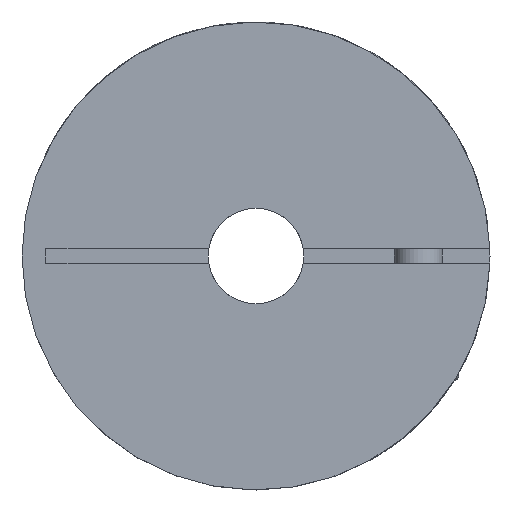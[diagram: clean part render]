
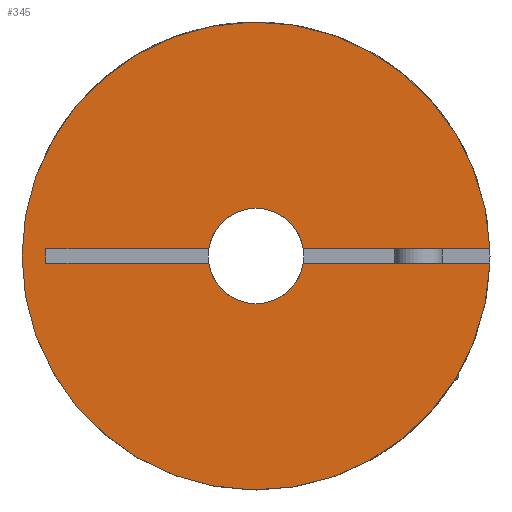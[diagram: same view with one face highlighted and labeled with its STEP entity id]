
A CAD part, left-side view. The second image highlights one B-rep face of the part: STEP entity #345.
In plain terms, the highlighted planar face has unit normal (-1, 0, 0).
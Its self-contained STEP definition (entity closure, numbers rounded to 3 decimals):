
#345=ADVANCED_FACE('',(#822),#823,.T.);
#822=FACE_OUTER_BOUND('',#1434,.T.);
#823=PLANE('',#1435);
#1434=EDGE_LOOP('',(#2345,#2346,#2347,#2348,#2349,#2350,#2351,#2352,#2353,#2354,#2355));
#1435=AXIS2_PLACEMENT_3D('',#2356,#2357,#2358);
#2345=ORIENTED_EDGE('',*,*,#3153,.T.);
#2346=ORIENTED_EDGE('',*,*,#3142,.T.);
#2347=ORIENTED_EDGE('',*,*,#3169,.F.);
#2348=ORIENTED_EDGE('',*,*,#3209,.F.);
#2349=ORIENTED_EDGE('',*,*,#3175,.T.);
#2350=ORIENTED_EDGE('',*,*,#3145,.T.);
#2351=ORIENTED_EDGE('',*,*,#3151,.T.);
#2352=ORIENTED_EDGE('',*,*,#3202,.T.);
#2353=ORIENTED_EDGE('',*,*,#3118,.F.);
#2354=ORIENTED_EDGE('',*,*,#3210,.F.);
#2355=ORIENTED_EDGE('',*,*,#3205,.T.);
#2356=CARTESIAN_POINT('',(0.,0.,24.5));
#2357=DIRECTION('',(-1.0,0.0,0.0));
#2358=DIRECTION('',(0.0,-1.0,0.0));
#3118=EDGE_CURVE('',#3670,#3672,#3673,.T.);
#3142=EDGE_CURVE('',#3707,#3715,#3717,.T.);
#3145=EDGE_CURVE('',#3722,#3719,#3723,.T.);
#3151=EDGE_CURVE('',#3719,#3730,#3732,.T.);
#3153=EDGE_CURVE('',#3734,#3707,#3735,.T.);
#3169=EDGE_CURVE('',#3756,#3715,#3758,.T.);
#3175=EDGE_CURVE('',#3765,#3722,#3766,.T.);
#3202=EDGE_CURVE('',#3730,#3672,#3800,.T.);
#3205=EDGE_CURVE('',#3803,#3734,#3804,.T.);
#3209=EDGE_CURVE('',#3765,#3756,#3808,.T.);
#3210=EDGE_CURVE('',#3803,#3670,#3809,.T.);
#3670=VERTEX_POINT('',#4542);
#3672=VERTEX_POINT('',#4545);
#3673=CIRCLE('',#4546,24.5);
#3707=VERTEX_POINT('',#4588);
#3715=VERTEX_POINT('',#4598);
#3717=CIRCLE('',#4601,5.0);
#3719=VERTEX_POINT('',#4603);
#3722=VERTEX_POINT('',#4607);
#3723=CIRCLE('',#4608,5.0);
#3730=VERTEX_POINT('',#4616);
#3732=CIRCLE('',#4619,5.0);
#3734=VERTEX_POINT('',#4621);
#3735=CIRCLE('',#4622,5.0);
#3756=VERTEX_POINT('',#4647);
#3758=LINE('',#4650,#4651);
#3765=VERTEX_POINT('',#4660);
#3766=LINE('',#4661,#4662);
#3800=LINE('',#4712,#4713);
#3803=VERTEX_POINT('',#4716);
#3804=LINE('',#4717,#4718);
#3808=LINE('',#4723,#4724);
#3809=CIRCLE('',#4725,24.5);
#4542=CARTESIAN_POINT('',(0.,24.5,0.));
#4545=CARTESIAN_POINT('',(0.,-24.489,0.75));
#4546=AXIS2_PLACEMENT_3D('',#5393,#5394,#5395);
#4588=CARTESIAN_POINT('',(0.,0.,-5.0));
#4598=CARTESIAN_POINT('',(0.0,4.943,-0.75));
#4601=AXIS2_PLACEMENT_3D('',#5434,#5435,#5436);
#4603=CARTESIAN_POINT('',(0.,0.,5.0));
#4607=CARTESIAN_POINT('',(0.0,4.943,0.75));
#4608=AXIS2_PLACEMENT_3D('',#5438,#5439,#5440);
#4616=CARTESIAN_POINT('',(0.0,-4.943,0.75));
#4619=AXIS2_PLACEMENT_3D('',#5449,#5450,#5451);
#4621=CARTESIAN_POINT('',(0.0,-4.943,-0.75));
#4622=AXIS2_PLACEMENT_3D('',#5452,#5453,#5454);
#4647=CARTESIAN_POINT('',(0.,22.0,-0.75));
#4650=CARTESIAN_POINT('',(0.,22.0,-0.75));
#4651=VECTOR('',#5481,18.071);
#4660=CARTESIAN_POINT('',(0.,22.0,0.75));
#4661=CARTESIAN_POINT('',(0.,22.0,0.75));
#4662=VECTOR('',#5487,18.071);
#4712=CARTESIAN_POINT('',(0.,-3.929,0.75));
#4713=VECTOR('',#5513,20.559);
#4716=CARTESIAN_POINT('',(0.,-24.489,-0.75));
#4717=CARTESIAN_POINT('',(0.,-24.489,-0.75));
#4718=VECTOR('',#5517,20.559);
#4723=CARTESIAN_POINT('',(0.,22.0,0.75));
#4724=VECTOR('',#5522,1.5);
#4725=AXIS2_PLACEMENT_3D('',#5523,#5524,#5525);
#5393=CARTESIAN_POINT('',(0.,0.,0.));
#5394=DIRECTION('',(1.0,0.0,0.0));
#5395=DIRECTION('',(0.0,1.0,0.0));
#5434=CARTESIAN_POINT('',(0.,0.0,0.0));
#5435=DIRECTION('',(1.0,-0.0,0.0));
#5436=DIRECTION('',(0.0,0.0,-1.0));
#5438=CARTESIAN_POINT('',(0.,0.0,0.0));
#5439=DIRECTION('',(1.0,-0.0,0.0));
#5440=DIRECTION('',(0.0,0.0,-1.0));
#5449=CARTESIAN_POINT('',(0.,0.0,0.0));
#5450=DIRECTION('',(1.0,-0.0,0.0));
#5451=DIRECTION('',(0.0,0.0,-1.0));
#5452=CARTESIAN_POINT('',(0.,0.0,0.0));
#5453=DIRECTION('',(1.0,-0.0,0.0));
#5454=DIRECTION('',(0.0,0.0,-1.0));
#5481=DIRECTION('',(0.0,-1.0,0.0));
#5487=DIRECTION('',(0.0,-1.0,0.0));
#5513=DIRECTION('',(0.0,-1.0,0.0));
#5517=DIRECTION('',(0.0,1.0,0.0));
#5522=DIRECTION('',(0.0,0.0,-1.0));
#5523=CARTESIAN_POINT('',(0.,0.,0.));
#5524=DIRECTION('',(1.0,0.0,0.0));
#5525=DIRECTION('',(0.0,1.0,0.0));
